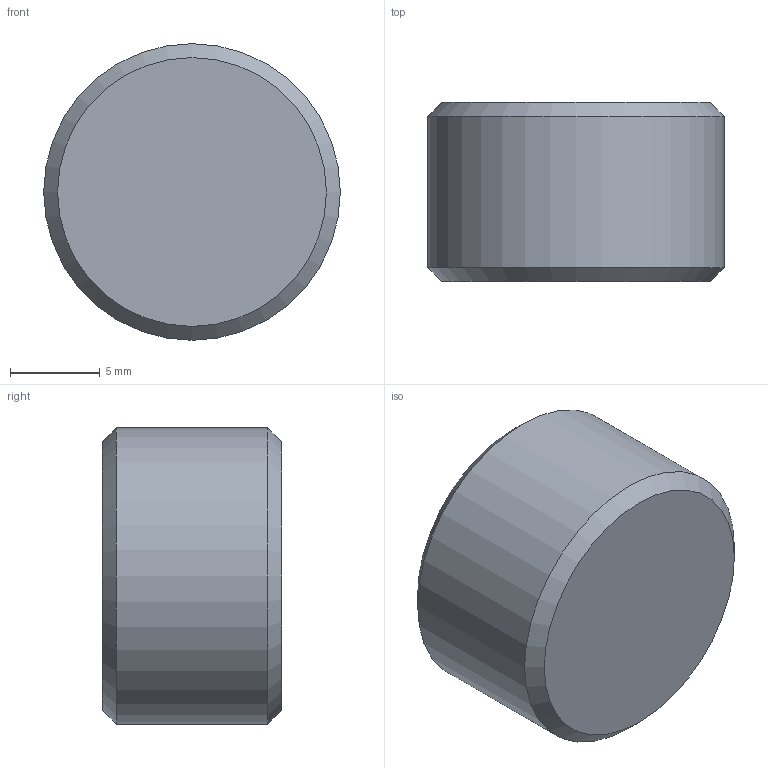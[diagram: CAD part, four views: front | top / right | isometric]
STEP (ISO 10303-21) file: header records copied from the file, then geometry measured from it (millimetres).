
FILE_DESCRIPTION(/* description */ (''),/* implementation_level */ '2;1');
FILE_NAME(/* name */ 'C:/Users/drich/Desktop/cad/Plugs/BSPT Pipe Plugs/Steel/SF-BSPT-38 v1.step',/* time_stamp */ '2020-01-10T13:01:04-06:00',/* author */ (''),/* organization */ (''),/* preprocessor_version */ 'ST-DEVELOPER v18',/* originating_system */ 'Autodesk Translation Framework v8.12.0.6',/* authorisation */ '');
FILE_SCHEMA (('AUTOMOTIVE_DESIGN { 1 0 10303 214 3 1 1 }'));
Length unit declared in the file: inch
Products named in the file (1): SF-BSPT-38
Bounding box: 16.54 x 9.98 x 16.54 mm (x, y, z)
Volume: 1733.8 mm3; surface area: 1077.1 mm2
Topology: 1 solids, 1 shells, 13 faces, 35 edges, 25 vertices
Faces by surface type: plane 9, cone 3, cylinder 1
Full cylindrical faces by diameter (mm): 16.537 x1
Entity records: 439 total; most frequent: CARTESIAN_POINT 98, ORIENTED_EDGE 70, DIRECTION 58, EDGE_CURVE 35, VERTEX_POINT 25, AXIS2_PLACEMENT_3D 21, LINE 16, VECTOR 16
